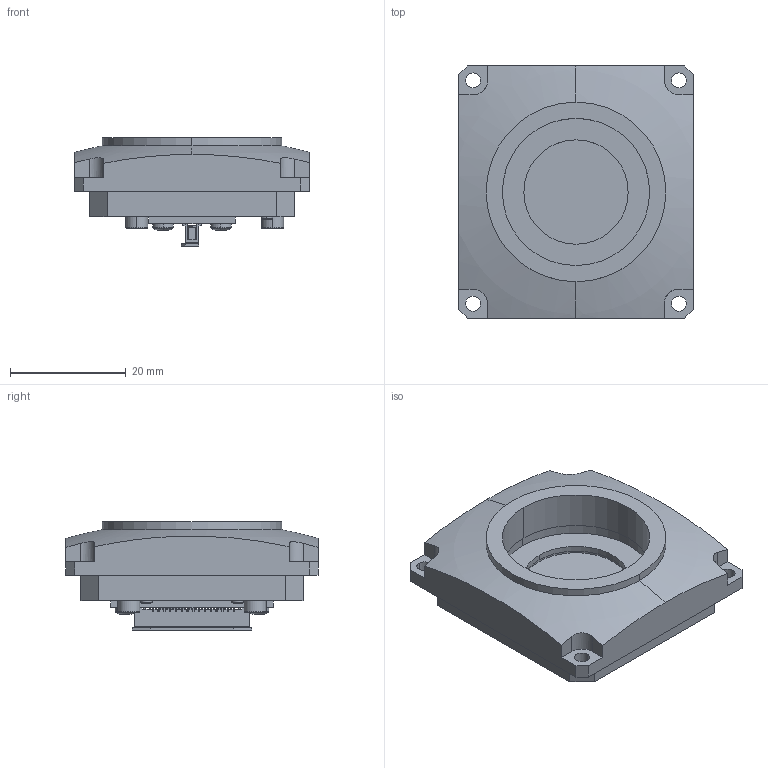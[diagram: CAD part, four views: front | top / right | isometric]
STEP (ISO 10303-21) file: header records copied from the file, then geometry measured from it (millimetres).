
FILE_DESCRIPTION(/* description */ ('VariCAD 2009-1.04 AP-203'),/* implementation_level */ '2;1');
FILE_NAME(/* name */ '0353-07-10',/* time_stamp */ '2009-11-19T17:42:54-07:00',/* author */ (''),/* organization */ (''),/* preprocessor_version */ 'ST-DEVELOPER v12',/* originating_system */ 'VariCAD 2009-1.04; kernel version (20080921)',/* authorisation */ '');
FILE_SCHEMA (('CONFIG_CONTROL_DESIGN'));
Length unit declared in the file: millimetre
Products named in the file (1): Part
Bounding box: 40.5 x 43.5 x 18.72 mm (x, y, z)
Volume: 14509.7 mm3; surface area: 12465 mm2
Topology: 38 solids, 38 shells, 2281 faces, 6667 edges, 4322 vertices
Faces by surface type: plane 1683, cylinder 412, cone 162, torus 14, sphere 10
Entity records: 75637 total; most frequent: CARTESIAN_POINT 14125, ORIENTED_EDGE 13310, DIRECTION 12113, EDGE_CURVE 6655, LINE 5533, VECTOR 5533, VERTEX_POINT 4322, AXIS2_PLACEMENT_3D 3290
